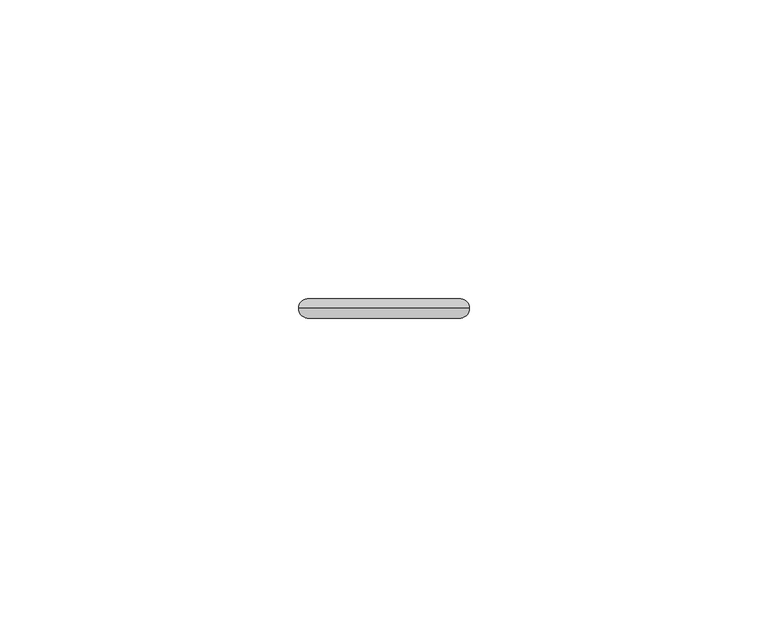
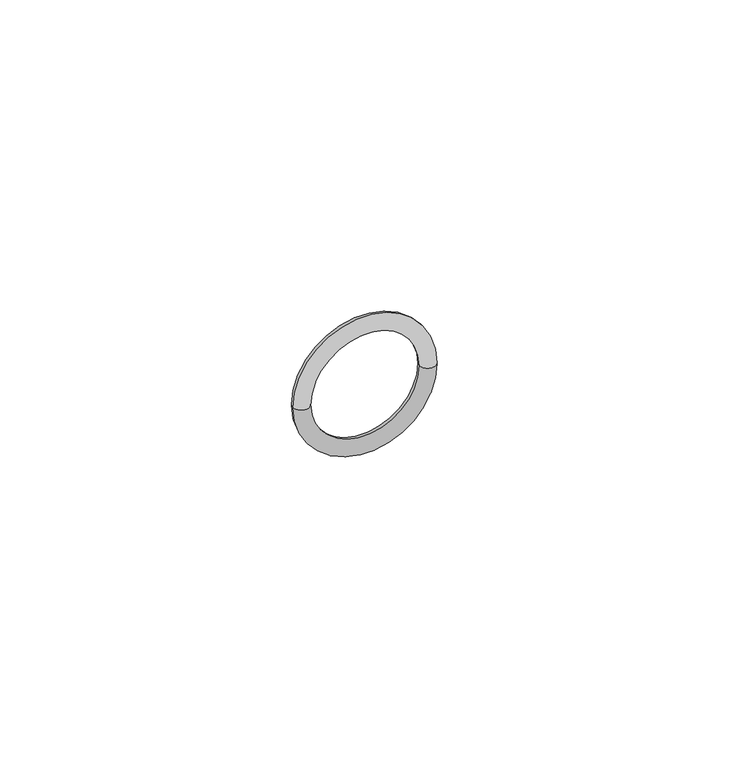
"""IFC4 building model written with IfcOpenShell, lengths in millimetres: pipe fitting geometry, VALTEC_VTi.990.I_Уплотнительное кольцо из FPM : VTi.990.I."""

from ifc_helpers import new_model, si_unit, point, frame, origin, place, context, project, spatial, circle_curve, ellipse_curve, trimmed, source, transform, mapped, element, save
from ifc_brep_helpers import revolved_surface, advanced_brep


def pipe_fitting_6c9c972c(model_context):
    return source(origin(), model_context, "Body", "AdvancedBrep", [
        advanced_brep(
        [(11.0, 0.0, 0.0), (-11.0, 0.0, 0.0), (-14.3, 0.0, 0.0), (14.3, 0.0, 0.0)],
        [
            (0, 1, circle_curve(frame((0.0, 0.0, 0.0), z_axis=(0.0, 1.0, 0.0), x_axis=(-1.0, 0.0, 0.0)), 11.0)),
            (1, 2, circle_curve(frame((-12.65, 0.0, 0.0), z_axis=(0.0, 0.0, -1.0), x_axis=(1.0, 0.0, 0.0)), 1.65)),
            (2, 3, circle_curve(frame((0.0, 0.0, 0.0), z_axis=(0.0, -1.0, 0.0), x_axis=(-1.0, 0.0, 0.0)), 14.3)),
            (3, 0, circle_curve(frame((12.65, 0.0, 0.0), z_axis=(0.0, 0.0, -1.0), x_axis=(-1.0, 0.0, 0.0)), 1.65)),
            (1, 0, circle_curve(frame((0.0, 0.0, 0.0), z_axis=(0.0, 1.0, 0.0), x_axis=(-1.0, 0.0, 0.0)), 11.0)),
            (3, 2, circle_curve(frame((0.0, 0.0, 0.0), z_axis=(0.0, -1.0, 0.0), x_axis=(-1.0, 0.0, 0.0)), 14.3)),
            (2, 1, circle_curve(frame((-12.65, 0.0, 0.0), z_axis=(0.0, 0.0, -1.0), x_axis=(1.0, 0.0, 0.0)), 1.65)),
            (0, 3, circle_curve(frame((12.65, 0.0, 0.0), z_axis=(0.0, 0.0, -1.0), x_axis=(-1.0, 0.0, 0.0)), 1.65)),
        ],
        [
            revolved_surface(trimmed(ellipse_curve(frame((-12.65, 0.0, 0.0), z_axis=(0.0, 0.0, 1.0), x_axis=(1.0, 0.0, 0.0)), 1.65, 1.65), [point((-14.3, 0.0, 0.0))], [point((-11.0, 0.0, 0.0))], True, "CARTESIAN"), (0.0, 1.0336847, 0.0), (0.0, -1.0, 0.0)),
            revolved_surface(trimmed(ellipse_curve(frame((-12.65, 0.0, 0.0), z_axis=(0.0, 0.0, 1.0), x_axis=(1.0, 0.0, 0.0)), 1.65, 1.65), [point((-11.0, 0.0, 0.0))], [point((-14.3, 0.0, 0.0))], True, "CARTESIAN"), (0.0, 1.0336847, 0.0), (0.0, -1.0, 0.0)),
        ],
        [
            (0, [[1, 2, 3, 4]]),
            (0, [[5, -4, 6, -2]]),
            (1, [[-3, 7, -1, 8]]),
            (1, [[-6, -8, -5, -7]]),
        ],
    ),
    ])


if __name__ == "__main__":
    model = new_model("IFC4")
    model_context = context("Model", 3, world=origin())
    ifc_project = project(units=[si_unit("LENGTHUNIT", "METRE", prefix="MILLI")], contexts=[model_context])
    site = spatial("IfcSite", under=ifc_project)
    building = spatial("IfcBuilding", under=site)
    placement = place(None, origin())
    pipe_fitting_shape = pipe_fitting_6c9c972c(model_context)
    element("IfcPipeFitting", 1, ObjectType="VALTEC_VTi.990.I_Уплотнительное кольцо из FPM : VTi.990.I", at=placement, inside=building, context=model_context, shape_type="MappedRepresentation", body=[
        mapped(pipe_fitting_shape, transform((0.0, 0.0, 0.0), x_axis=(1.0, 0.0, 0.0), y_axis=(0.0, 1.0, 0.0), z_axis=(0.0, 0.0, 1.0))),
    ])
    save(model, "model.ifc")
